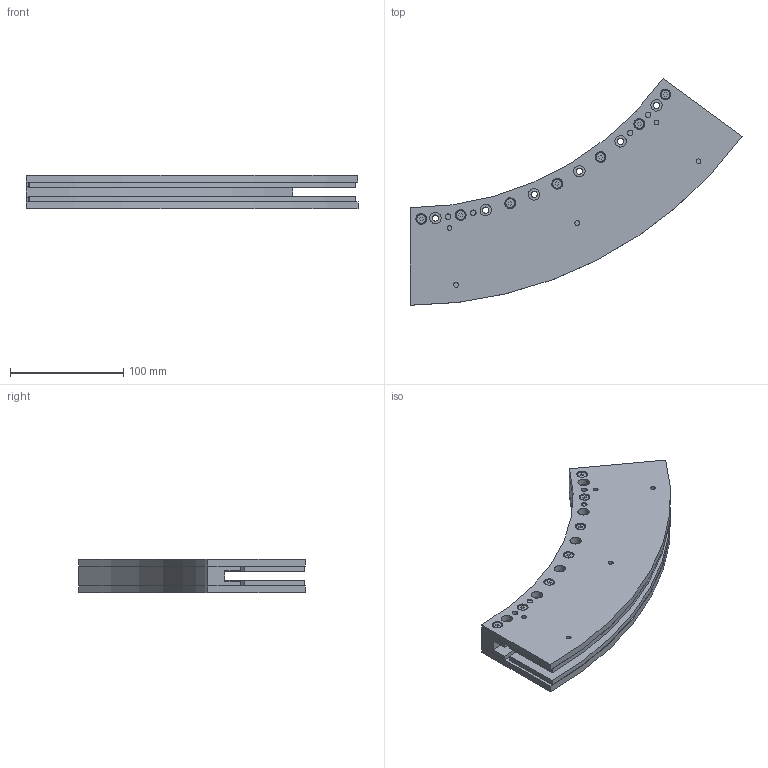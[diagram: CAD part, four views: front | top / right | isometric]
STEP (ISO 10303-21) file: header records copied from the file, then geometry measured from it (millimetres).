
FILE_DESCRIPTION (( 'STEP AP214' ), '1' );
FILE_NAME ('ARCM280-TA054 (CUSTOMER)_defeature.step', '2021-07-23T08:26:20', ( '' ), ( '' ), 'SwSTEP 2.0', 'SolidWorks 2020', '' );
FILE_SCHEMA (( 'AUTOMOTIVE_DESIGN' ));
Length unit declared in the file: millimetre
Products named in the file (1): ARCM280-TA054 (CUSTOMER)_defeature
Bounding box: 292.86 x 199.77 x 29.6 mm (x, y, z)
Volume: 553231.6 mm3; surface area: 131990.9 mm2
Topology: 1 solids, 26 shells, 504 faces, 1108 edges, 708 vertices
Faces by surface type: cylinder 218, plane 206, cone 52, torus 28
Entity records: 16072 total; most frequent: DIRECTION 2652, CARTESIAN_POINT 2313, ORIENTED_EDGE 2200, EDGE_CURVE 1100, AXIS2_PLACEMENT_3D 1047, VERTEX_POINT 708, EDGE_LOOP 604, VECTOR 558
